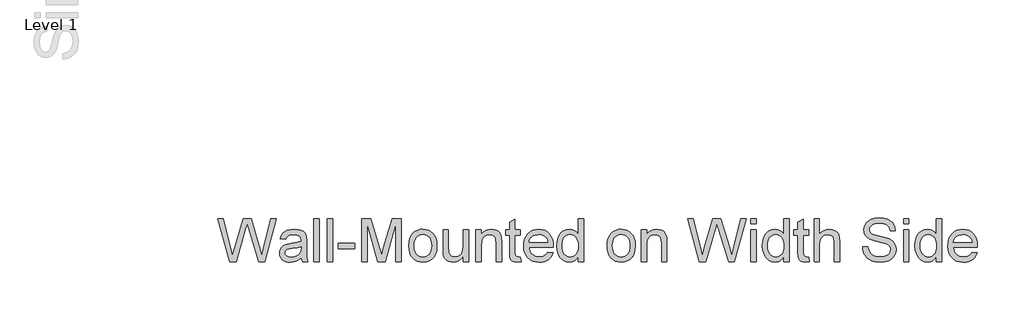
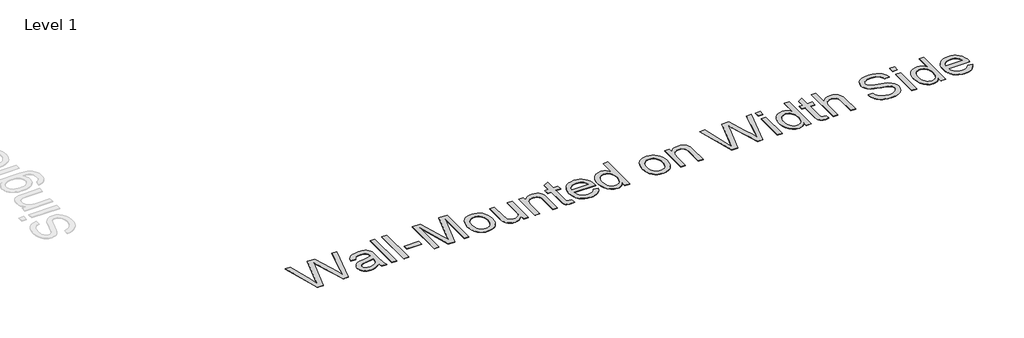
# One storey, part 64 of 80: 1 proxy.
"""IFC4 building model written with IfcOpenShell, lengths in millimetres."""

from ifc_helpers import new_model, si_unit, origin, origin_with_axes, place, context, project, spatial, polyline, outline, extrude, element, save

model = new_model("IFC4")

# Units and contexts
model_context = context("Model", 3, world=origin())
ifc_project = project(units=[si_unit("LENGTHUNIT", "METRE", prefix="MILLI")], contexts=[model_context])

# Site, building, storey
site = spatial("IfcSite", under=ifc_project)
building = spatial("IfcBuilding", under=site)
storey = spatial("IfcBuildingStorey", under=building, Name="Level 1", Elevation=0.0)

# Proxy
placement = place(None, origin())
element("IfcBuildingElementProxy", 1, Name="500mm Arial", ObjectType="500mm Arial", at=placement, inside=storey, context=model_context, shape_type="SweptSolid", body=[
    extrude(outline(polyline([(174085.7582965, 63218.3083036), (173948.783567, 63720.5898543), (174013.5307981, 63720.5898543), (174092.9933091, 63390.4770773), (174117.5187754, 63288.5737646), (174143.7610244, 63378.7048535), (174243.3344178, 63720.5898543), (174336.6538172, 63720.5898543), (174409.0039429, 63472.7600169), (174439.998001, 63380.7895181), (174462.8373416, 63288.5737646), (174486.6270439, 63387.5340213), (174566.8253189, 63720.5898543), (174631.57255, 63720.5898543), (174494.4751932, 63218.3083036), (174427.3980427, 63218.3083036), (174306.9780029, 63605.8106718), (174290.1780585, 63659.8893251), (174271.2934494, 63594.774212), (174161.5419875, 63218.3083036), (174085.7582965, 63218.3083036)])), origin_with_axes(), (0.0, 0.0, 1.0), 5.0),
    extrude(outline(polyline([(174921.9540716, 63265.3971989), (174891.9563605, 63239.6761161), (174861.0696013, 63222.8455148), (174828.5886869, 63213.5564945), (174793.8085099, 63210.4601543), (174765.8533104, 63212.3225569), (174741.3393403, 63217.9097647), (174720.2665998, 63227.2217777), (174702.6350888, 63240.2585959), (174688.7130545, 63256.1924849), (174678.7687443, 63274.19571), (174672.8021582, 63294.2682714), (174670.8132962, 63316.4101689), (174673.8176658, 63342.4378201), (174682.8307747, 63366.0742383), (174696.7336484, 63386.307748), (174714.4073126, 63402.1266738), (174735.1773169, 63414.0828387), (174758.369211, 63422.7280656), (174812.693119, 63432.1703701), (174876.8885271, 63442.103184), (174921.5861896, 63453.7527805), (174921.9540716, 63467.7322963), (174917.6314581, 63495.7526416), (174904.6636178, 63514.0854277), (174891.5884785, 63522.0255474), (174875.6622538, 63527.6970615), (174835.256548, 63532.2342728), (174797.8552118, 63529.2145747), (174771.7355902, 63520.1554806), (174753.9239703, 63503.4015214), (174741.4466393, 63477.2972282), (174678.6614454, 63485.1453774), (174689.5599495, 63519.4810303), (174705.8233994, 63546.4590433), (174728.9693082, 63567.0910918), (174760.5151893, 63582.3888515), (174799.0968136, 63591.8618128), (174843.3499519, 63595.0194666), (174885.7943371, 63592.2296948), (174919.4402113, 63583.8603794), (174944.8087405, 63571.2757495), (174962.421091, 63555.8400341), (174974.1013444, 63536.7561556), (174981.6735821, 63513.2270364), (174984.7392654, 63458.2899918), (174984.7392654, 63380.1763814), (174987.927576, 63271.0993699), (174992.6487283, 63244.1366853), (175000.4355639, 63218.3083036), (174937.65037, 63218.3083036), (174927.5949288, 63240.1359686), (174921.9540716, 63265.3971989)]), holes=[polyline([(174921.9540716, 63390.9675866), (174879.7702694, 63380.5136066), (174820.6638955, 63371.7150956), (174766.6465559, 63361.537027), (174752.590398, 63354.5779259), (174742.1824032, 63344.9823372), (174735.7444683, 63333.4860249), (174733.59849, 63320.8247529), (174738.273657, 63302.1547416), (174752.2991581, 63286.856982), (174775.3684249, 63276.6482566), (174807.1748891, 63273.2453482), (174840.8974053, 63277.0008102), (174870.6958469, 63288.2671963), (174894.8534312, 63304.8678713), (174911.6533757, 63324.6262002), (174919.1029861, 63344.9823372), (174921.5861896, 63373.1866235), (174921.9540716, 63390.9675866)])]), origin_with_axes(), (0.0, 0.0, 1.0), 5.0),
    extrude(outline(polyline([(175071.0689069, 63218.3083036), (175071.0689069, 63720.5898543), (175133.8541008, 63720.5898543), (175133.8541008, 63218.3083036), (175071.0689069, 63218.3083036)])), origin_with_axes(), (0.0, 0.0, 1.0), 5.0),
    extrude(outline(polyline([(175228.0318915, 63218.3083036), (175228.0318915, 63720.5898543), (175290.8170854, 63720.5898543), (175290.8170854, 63218.3083036), (175228.0318915, 63218.3083036)])), origin_with_axes(), (0.0, 0.0, 1.0), 5.0),
    extrude(outline(polyline([(175353.6022792, 63367.4231389), (175353.6022792, 63430.2083328), (175549.80601, 63430.2083328), (175549.80601, 63367.4231389), (175353.6022792, 63367.4231389)])), origin_with_axes(), (0.0, 0.0, 1.0), 5.0),
    extrude(outline(polyline([(175628.2875023, 63218.3083036), (175628.2875023, 63720.5898543), (175736.3221815, 63720.5898543), (175839.0838855, 63366.5647476), (175859.8079046, 63292.6204666), (175882.2487063, 63372.6961142), (175983.2936276, 63720.5898543), (176091.3283069, 63720.5898543), (176091.3283069, 63218.3083036), (176028.543113, 63218.3083036), (176028.543113, 63657.8046605), (175902.3595887, 63218.3083036), (175817.2562205, 63218.3083036), (175691.0726961, 63657.8046605), (175691.0726961, 63218.3083036), (175628.2875023, 63218.3083036)])), origin_with_axes(), (0.0, 0.0, 1.0), 5.0),
    extrude(outline(polyline([(176177.6579484, 63402.7398105), (176181.0531927, 63450.5108204), (176191.2389254, 63491.6752828), (176208.2151466, 63526.2331977), (176231.9818564, 63554.1845652), (176255.9095145, 63572.0498346), (176282.320376, 63584.8107413), (176311.2144411, 63592.4672853), (176342.5917096, 63595.0194666), (176377.2300987, 63591.9116302), (176408.5498856, 63582.5881209), (176436.5510704, 63567.0489387), (176461.233653, 63545.2940836), (176481.3790244, 63518.0593197), (176495.7685753, 63486.0804108), (176504.4023059, 63449.3573571), (176507.2802161, 63407.8901584), (176502.1911818, 63344.4611711), (176495.829889, 63318.4258557), (176486.924079, 63296.1766592), (176475.584883, 63276.9586571), (176461.9234318, 63260.0169248), (176445.9397255, 63245.3514623), (176427.6337641, 63232.9622697), (176386.9061616, 63216.0856832), (176342.5917096, 63210.4601543), (176307.4474827, 63213.5564945), (176275.8364559, 63222.8455148), (176247.758629, 63238.3272155), (176223.2140022, 63260.0015964), (176203.2832286, 63287.5007755), (176189.0469619, 63320.4568709), (176180.5052018, 63358.8698826), (176177.6579484, 63402.7398105)]), holes=[polyline([(176240.4431423, 63402.8624378), (176242.2595596, 63372.4087064), (176247.7088117, 63346.039998), (176256.7908984, 63323.7563125), (176269.5058199, 63305.5576501), (176284.9721921, 63291.421018), (176302.3086311, 63281.3234237), (176321.515137, 63275.264867), (176342.5917096, 63273.2453482), (176363.5609833, 63275.2763634), (176382.6908471, 63281.3694089), (176399.9813008, 63291.5244848), (176415.4323446, 63305.7415911), (176428.1472661, 63324.1203624), (176437.2293529, 63346.7604335), (176442.6786049, 63373.6618044), (176444.4950223, 63404.8244751), (176442.6671086, 63434.3125163), (176437.1833676, 63459.991446), (176428.0437993, 63481.8612642), (176415.2484036, 63499.9219709), (176399.7398783, 63514.058603), (176382.4609208, 63524.1561973), (176363.4115313, 63530.2147539), (176342.5917096, 63532.2342728), (176321.515137, 63530.2224181), (176302.3086311, 63524.1868541), (176284.9721921, 63514.1275808), (176269.5058199, 63500.0445982), (176256.7908984, 63481.8995852), (176247.7088117, 63459.6542208), (176242.2595596, 63433.308505), (176240.4431423, 63402.8624378)])]), origin_with_axes(), (0.0, 0.0, 1.0), 5.0),
    extrude(outline(polyline([(176813.3580361, 63218.3083036), (176813.3580361, 63281.7066341), (176790.6413229, 63250.5362992), (176764.1844761, 63228.2717743), (176733.9874956, 63214.9130593), (176700.0503816, 63210.4601543), (176669.4701907, 63213.5871513), (176641.0053213, 63222.9681422), (176617.1236485, 63237.0702853), (176600.2930472, 63254.3607391), (176588.9653474, 63275.3606697), (176581.5923791, 63300.5912432), (176577.9135592, 63358.9618531), (176577.9135592, 63587.1713174), (176640.698753, 63587.1713174), (176640.698753, 63388.51504), (176644.5002003, 63324.5035728), (176653.6512649, 63303.1510887), (176669.332235, 63286.9182957), (176690.5007781, 63276.663585), (176716.114562, 63273.2453482), (176743.1998739, 63276.7402271), (176768.5377463, 63287.224864), (176789.430378, 63303.7335685), (176803.1799676, 63325.3006505), (176810.813519, 63354.838509), (176813.3580361, 63395.2595432), (176813.3580361, 63587.1713174), (176876.1432299, 63587.1713174), (176876.1432299, 63218.3083036), (176813.3580361, 63218.3083036)])), origin_with_axes(), (0.0, 0.0, 1.0), 5.0),
    extrude(outline(polyline([(176962.4728715, 63218.3083036), (176962.4728715, 63587.1713174), (177025.2580653, 63587.1713174), (177025.2580653, 63535.6678381), (177047.0704019, 63561.6341756), (177073.2666657, 63580.1815595), (177103.8468565, 63591.3099898), (177138.8109745, 63595.0194666), (177169.7590473, 63592.0304254), (177198.1012894, 63583.0633018), (177221.7377076, 63569.2370701), (177238.5683088, 63551.6707049), (177249.9879791, 63530.4101912), (177257.3916043, 63505.5015145), (177260.7025422, 63444.8009853), (177260.7025422, 63218.3083036), (177197.9173484, 63218.3083036), (177197.9173484, 63436.3396994), (177196.1085952, 63468.8052854), (177190.6823358, 63491.8898806), (177180.6728799, 63508.429242), (177165.1145371, 63521.2591266), (177145.1722673, 63529.4904862), (177122.01103, 63532.2342728), (177102.9463121, 63530.6937669), (177085.2381589, 63526.0722494), (177068.8865707, 63518.3697201), (177053.8915473, 63507.5861791), (177041.3643989, 63492.4953531), (177032.4164358, 63471.8709687), (177027.0476579, 63445.713026), (177025.2580653, 63414.021525), (177025.2580653, 63218.3083036), (176962.4728715, 63218.3083036)])), origin_with_axes(), (0.0, 0.0, 1.0), 5.0),
    extrude(outline(polyline([(177480.4507207, 63270.6701742), (177488.2988699, 63216.4688936), (177441.3326019, 63210.4601543), (177411.1969351, 63213.0659851), (177388.7254765, 63220.8834775), (177372.8452371, 63232.9316129), (177362.4832276, 63248.2293725), (177356.7810566, 63274.5022783), (177354.880333, 63319.4758522), (177354.880333, 63524.3861236), (177307.7914376, 63524.3861236), (177307.7914376, 63587.1713174), (177354.880333, 63587.1713174), (177354.880333, 63676.8118969), (177417.6655268, 63713.7227237), (177417.6655268, 63587.1713174), (177480.4507207, 63587.1713174), (177480.4507207, 63524.3861236), (177417.6655268, 63524.3861236), (177417.6655268, 63321.3152622), (177420.9764648, 63288.9416466), (177431.7063563, 63277.4759911), (177453.1048257, 63273.2453482), (177480.4507207, 63270.6701742)])), origin_with_axes(), (0.0, 0.0, 1.0), 5.0),
    extrude(outline(polyline([(177801.4890751, 63328.1823928), (177863.0479957, 63320.3342436), (177853.6095232, 63295.6784857), (177840.867777, 63273.9504553), (177824.8227571, 63255.1501525), (177805.4744634, 63239.2775773), (177783.0221654, 63226.6699547), (177757.6651325, 63217.6645101), (177729.4033646, 63212.2612433), (177698.2368618, 63210.4601543), (177659.2796914, 63213.5679908), (177624.5684923, 63222.8915001), (177594.1032646, 63238.4306823), (177567.8840082, 63260.1855373), (177546.7997713, 63287.5505928), (177531.7396022, 63319.9203763), (177522.7035007, 63357.2948878), (177519.6914668, 63399.6741272), (177522.7341575, 63443.4904057), (177531.8622295, 63482.1103509), (177547.0756828, 63515.533963), (177568.3745175, 63543.761242), (177594.524796, 63566.1867153), (177624.2925808, 63582.2049105), (177657.6778719, 63591.8158276), (177694.6806692, 63595.0194666), (177730.4916822, 63591.8234918), (177762.8767941, 63582.2355673), (177791.8360049, 63566.2556931), (177817.3693146, 63543.8838693), (177838.2121289, 63515.717904), (177853.0998534, 63482.3556056), (177862.0324881, 63443.796974), (177865.010033, 63400.0420092), (177864.642151, 63383.1194374), (177582.4766607, 63383.1194374), (177586.1133275, 63358.0651407), (177593.3445079, 63336.1225125), (177604.1702021, 63317.2915529), (177618.5904099, 63301.5722618), (177635.8080537, 63289.1792371), (177655.0260558, 63280.3270766), (177676.2444163, 63275.0157803), (177699.4631351, 63273.2453482), (177732.879083, 63276.5256293), (177761.0220557, 63286.3664727), (177783.892053, 63303.3810149), (177801.4890751, 63328.1823928)]), holes=[polyline([(177582.4766607, 63445.9046312), (177802.2248391, 63445.9046312), (177793.7328964, 63479.0753245), (177777.0862361, 63502.8037132), (177759.9643949, 63515.679583), (177740.4819776, 63524.8766329), (177718.6389841, 63530.3948628), (177694.4354145, 63532.2342728), (177652.1136567, 63526.3634893), (177633.7003964, 63519.0250099), (177617.1188819, 63508.7511388), (177603.2045118, 63496.0170568), (177592.792685, 63481.2979449), (177585.8834012, 63464.593803), (177582.4766607, 63445.9046312)])]), origin_with_axes(), (0.0, 0.0, 1.0), 5.0),
    extrude(outline(polyline([(178155.3915545, 63218.3083036), (178155.3915545, 63277.5373048), (178136.6065801, 63248.1910515), (178113.8515459, 63227.2294419), (178087.1264518, 63214.6524762), (178056.4312978, 63210.4601543), (178015.841651, 63216.5302073), (177978.6855695, 63234.740366), (177947.2316589, 63263.8183721), (177923.7485249, 63302.4919668), (177909.1252156, 63349.1976518), (177904.2507791, 63402.3719285), (177908.7420051, 63454.8870833), (177922.2156832, 63502.3132038), (177932.3171097, 63523.4434259), (177944.6564849, 63541.9524888), (177959.233809, 63557.8403925), (177976.0490818, 63571.1071369), (178014.0175694, 63589.0413842), (178056.1860431, 63595.0194666), (178086.9041897, 63590.7428384), (178114.0661437, 63577.9129539), (178137.0894252, 63558.2465955), (178155.3915545, 63533.4605461), (178155.3915545, 63720.5898543), (178218.1767483, 63720.5898543), (178218.1767483, 63218.3083036), (178155.3915545, 63218.3083036)]), holes=[polyline([(177967.035973, 63402.6171831), (177968.8064051, 63372.1711159), (177974.1177014, 63345.8254001), (177982.9698619, 63323.5800357), (177995.3628866, 63305.4350228), (178010.1624727, 63291.3520401), (178026.2343174, 63281.2927668), (178043.5784206, 63275.2572028), (178062.1947824, 63273.2453482), (178080.8992826, 63275.1652323), (178098.139919, 63280.9248848), (178113.9166916, 63290.5243056), (178128.2296005, 63303.9634948), (178140.1129554, 63321.3497512), (178148.601066, 63342.7903737), (178153.6939324, 63368.2853624), (178155.3915545, 63397.8347172), (178153.6632755, 63430.2313254), (178148.4784387, 63458.0140803), (178139.8370439, 63481.1829817), (178127.7390912, 63499.7380299), (178113.1119498, 63513.9551361), (178096.8829888, 63524.1102121), (178079.0522084, 63530.2032576), (178059.6196084, 63532.2342728), (178040.6353646, 63530.2837318), (178023.2912614, 63524.4321088), (178007.5872987, 63514.6794038), (177993.5234766, 63501.0256169), (177981.9351938, 63483.1718438), (177973.6578489, 63460.8191805), (177968.6914419, 63433.9676269), (177967.035973, 63402.6171831)])]), origin_with_axes(), (0.0, 0.0, 1.0), 5.0),
    extrude(outline(polyline([(178492.8619714, 63402.7398105), (178496.2572156, 63450.5108204), (178506.4429484, 63491.6752828), (178523.4191696, 63526.2331977), (178547.1858794, 63554.1845652), (178571.1135375, 63572.0498346), (178597.524399, 63584.8107413), (178626.4184641, 63592.4672853), (178657.7957326, 63595.0194666), (178692.4341217, 63591.9116302), (178723.7539086, 63582.5881209), (178751.7550934, 63567.0489387), (178776.437676, 63545.2940836), (178796.5830474, 63518.0593197), (178810.9725983, 63486.0804108), (178819.6063289, 63449.3573571), (178822.4842391, 63407.8901584), (178817.3952048, 63344.4611711), (178811.033912, 63318.4258557), (178802.128102, 63296.1766592), (178790.7889059, 63276.9586571), (178777.1274548, 63260.0169248), (178761.1437485, 63245.3514623), (178742.8377871, 63232.9622697), (178702.1101846, 63216.0856832), (178657.7957326, 63210.4601543), (178622.6515057, 63213.5564945), (178591.0404789, 63222.8455148), (178562.962652, 63238.3272155), (178538.4180251, 63260.0015964), (178518.4872516, 63287.5007755), (178504.2509848, 63320.4568709), (178495.7092248, 63358.8698826), (178492.8619714, 63402.7398105)]), holes=[polyline([(178555.6471652, 63402.8624378), (178557.4635826, 63372.4087064), (178562.9128346, 63346.039998), (178571.9949214, 63323.7563125), (178584.7098429, 63305.5576501), (178600.1762151, 63291.421018), (178617.5126541, 63281.3234237), (178636.7191599, 63275.264867), (178657.7957326, 63273.2453482), (178678.7650063, 63275.2763634), (178697.89487, 63281.3694089), (178715.1853238, 63291.5244848), (178730.6363676, 63305.7415911), (178743.3512891, 63324.1203624), (178752.4333758, 63346.7604335), (178757.8826279, 63373.6618044), (178759.6990452, 63404.8244751), (178757.8711316, 63434.3125163), (178752.3873906, 63459.991446), (178743.2478223, 63481.8612642), (178730.4524266, 63499.9219709), (178714.9439013, 63514.058603), (178697.6649438, 63524.1561973), (178678.6155542, 63530.2147539), (178657.7957326, 63532.2342728), (178636.7191599, 63530.2224181), (178617.5126541, 63524.1868541), (178600.1762151, 63514.1275808), (178584.7098429, 63500.0445982), (178571.9949214, 63481.8995852), (178562.9128346, 63459.6542208), (178557.4635826, 63433.308505), (178555.6471652, 63402.8624378)])]), origin_with_axes(), (0.0, 0.0, 1.0), 5.0),
    extrude(outline(polyline([(178893.1175822, 63218.3083036), (178893.1175822, 63587.1713174), (178955.902776, 63587.1713174), (178955.902776, 63535.6678381), (178977.7151126, 63561.6341756), (179003.9113764, 63580.1815595), (179034.4915672, 63591.3099898), (179069.4556852, 63595.0194666), (179100.403758, 63592.0304254), (179128.7460001, 63583.0633018), (179152.3824183, 63569.2370701), (179169.2130195, 63551.6707049), (179180.6326898, 63530.4101912), (179188.036315, 63505.5015145), (179191.3472529, 63444.8009853), (179191.3472529, 63218.3083036), (179128.5620591, 63218.3083036), (179128.5620591, 63436.3396994), (179126.7533059, 63468.8052854), (179121.3270465, 63491.8898806), (179111.3175905, 63508.429242), (179095.7592478, 63521.2591266), (179075.816978, 63529.4904862), (179052.6557407, 63532.2342728), (179033.5910227, 63530.6937669), (179015.8828696, 63526.0722494), (178999.5312814, 63518.3697201), (178984.536258, 63507.5861791), (178972.0091096, 63492.4953531), (178963.0611465, 63471.8709687), (178957.6923686, 63445.713026), (178955.902776, 63414.021525), (178955.902776, 63218.3083036), (178893.1175822, 63218.3083036)])), origin_with_axes(), (0.0, 0.0, 1.0), 5.0),
    extrude(outline(polyline([(179571.6146086, 63218.3083036), (179434.6398791, 63720.5898543), (179499.3871102, 63720.5898543), (179578.8496212, 63390.4770773), (179603.3750875, 63288.5737646), (179629.6173365, 63378.7048535), (179729.1907299, 63720.5898543), (179822.5101293, 63720.5898543), (179894.860255, 63472.7600169), (179925.8543131, 63380.7895181), (179948.6936536, 63288.5737646), (179972.483356, 63387.5340213), (180052.681631, 63720.5898543), (180117.4288621, 63720.5898543), (179980.3315052, 63218.3083036), (179913.2543548, 63218.3083036), (179792.834315, 63605.8106718), (179776.0343706, 63659.8893251), (179757.1497615, 63594.774212), (179647.3982996, 63218.3083036), (179571.6146086, 63218.3083036)])), origin_with_axes(), (0.0, 0.0, 1.0), 5.0),
    extrude(outline(polyline([(180172.3659067, 63657.8046605), (180172.3659067, 63720.5898543), (180235.1511006, 63720.5898543), (180235.1511006, 63657.8046605), (180172.3659067, 63657.8046605)])), origin_with_axes(), (0.0, 0.0, 1.0), 5.0),
    extrude(outline(polyline([(180172.3659067, 63218.3083036), (180172.3659067, 63587.1713174), (180235.1511006, 63587.1713174), (180235.1511006, 63218.3083036), (180172.3659067, 63218.3083036)])), origin_with_axes(), (0.0, 0.0, 1.0), 5.0),
    extrude(outline(polyline([(180556.925219, 63218.3083036), (180556.925219, 63277.5373048), (180538.1402446, 63248.1910515), (180515.3852104, 63227.2294419), (180488.6601163, 63214.6524762), (180457.9649623, 63210.4601543), (180417.3753155, 63216.5302073), (180380.219234, 63234.740366), (180348.7653234, 63263.8183721), (180325.2821894, 63302.4919668), (180310.6588801, 63349.1976518), (180305.7844436, 63402.3719285), (180310.2756697, 63454.8870833), (180323.7493477, 63502.3132038), (180333.8507742, 63523.4434259), (180346.1901494, 63541.9524888), (180360.7674735, 63557.8403925), (180377.5827464, 63571.1071369), (180415.5512339, 63589.0413842), (180457.7197076, 63595.0194666), (180488.4378542, 63590.7428384), (180515.5998082, 63577.9129539), (180538.6230897, 63558.2465955), (180556.925219, 63533.4605461), (180556.925219, 63720.5898543), (180619.7104128, 63720.5898543), (180619.7104128, 63218.3083036), (180556.925219, 63218.3083036)]), holes=[polyline([(180368.5696375, 63402.6171831), (180370.3400696, 63372.1711159), (180375.6513659, 63345.8254001), (180384.5035264, 63323.5800357), (180396.8965511, 63305.4350228), (180411.6961372, 63291.3520401), (180427.7679819, 63281.2927668), (180445.1120851, 63275.2572028), (180463.7284469, 63273.2453482), (180482.4329471, 63275.1652323), (180499.6735835, 63280.9248848), (180515.4503562, 63290.5243056), (180529.763265, 63303.9634948), (180541.6466199, 63321.3497512), (180550.1347305, 63342.7903737), (180555.2275969, 63368.2853624), (180556.925219, 63397.8347172), (180555.19694, 63430.2313254), (180550.0121032, 63458.0140803), (180541.3707084, 63481.1829817), (180529.2727557, 63499.7380299), (180514.6456143, 63513.9551361), (180498.4166534, 63524.1102121), (180480.5858729, 63530.2032576), (180461.1532729, 63532.2342728), (180442.1690291, 63530.2837318), (180424.8249259, 63524.4321088), (180409.1209632, 63514.6794038), (180395.0571411, 63501.0256169), (180383.4688583, 63483.1718438), (180375.1915134, 63460.8191805), (180370.2251065, 63433.9676269), (180368.5696375, 63402.6171831)])]), origin_with_axes(), (0.0, 0.0, 1.0), 5.0),
    extrude(outline(polyline([(180847.3067405, 63270.6701742), (180855.1548898, 63216.4688936), (180808.1886217, 63210.4601543), (180778.0529549, 63213.0659851), (180755.5814964, 63220.8834775), (180739.7012569, 63232.9316129), (180729.3392474, 63248.2293725), (180723.6370765, 63274.5022783), (180721.7363528, 63319.4758522), (180721.7363528, 63524.3861236), (180674.6474575, 63524.3861236), (180674.6474575, 63587.1713174), (180721.7363528, 63587.1713174), (180721.7363528, 63676.8118969), (180784.5215467, 63713.7227237), (180784.5215467, 63587.1713174), (180847.3067405, 63587.1713174), (180847.3067405, 63524.3861236), (180784.5215467, 63524.3861236), (180784.5215467, 63321.3152622), (180787.8324846, 63288.9416466), (180798.5623762, 63277.4759911), (180819.9608456, 63273.2453482), (180847.3067405, 63270.6701742)])), origin_with_axes(), (0.0, 0.0, 1.0), 5.0),
    extrude(outline(polyline([(180910.0919344, 63218.3083036), (180910.0919344, 63720.5898543), (180972.8771282, 63720.5898543), (180972.8771282, 63535.9130927), (180995.9387308, 63561.7721313), (181021.8360904, 63580.2428732), (181050.5692071, 63591.3253183), (181082.1380808, 63595.0194666), (181120.0605831, 63590.9880931), (181152.6487965, 63578.8939725), (181178.3085657, 63559.6874667), (181195.4457353, 63534.3189374), (181205.1026377, 63499.4621184), (181208.3216051, 63451.7907432), (181208.3216051, 63218.3083036), (181145.5364113, 63218.3083036), (181145.5364113, 63445.2914946), (181140.5393475, 63484.5935544), (181134.2930178, 63499.6000741), (181125.5481562, 63511.5102537), (181114.5116964, 63520.5770121), (181101.3905719, 63527.053268), (181068.894329, 63532.2342728), (181042.3608401, 63528.7393938), (181017.4521633, 63518.254757), (180996.8201147, 63501.7920377), (180983.1165104, 63480.3629115), (180975.4369738, 63451.8827137), (180972.8771282, 63414.2667797), (180972.8771282, 63218.3083036), (180910.0919344, 63218.3083036)])), origin_with_axes(), (0.0, 0.0, 1.0), 5.0),
    extrude(outline(polyline([(181475.158679, 63390.9675866), (181537.9438728, 63390.9675866), (181545.1482285, 63356.126096), (181558.1773825, 63328.1210791), (181578.5028628, 63305.8948752), (181607.5961972, 63288.3898236), (181643.1581234, 63277.031467), (181682.8893789, 63273.2453482), (181717.8688253, 63276.1117621), (181748.4950014, 63284.7110037), (181773.3117076, 63298.3226375), (181790.8627445, 63316.2262279), (181801.3013961, 63336.7816344), (181804.7809466, 63358.3487164), (181802.1751158, 63379.3639754), (181794.3576234, 63397.5281489), (181778.477384, 63413.0251779), (181751.683312, 63426.0390035), (181660.2646362, 63450.0126469), (181600.2538857, 63465.8775579), (181561.8562025, 63480.9760481), (181530.6015613, 63502.098606), (181508.4519995, 63527.6970615), (181495.254233, 63557.2195916), (181490.8549774, 63590.1143734), (181496.2965653, 63626.8872445), (181512.6213288, 63661.1769121), (181524.7576025, 63676.704598), (181539.4000724, 63690.2395897), (181576.2036003, 63711.3314908), (181620.3800966, 63724.1613753), (181669.2777451, 63728.4380035), (181722.2527524, 63723.9621059), (181768.6058838, 63710.5344131), (181806.6816703, 63688.4308366), (181821.9947583, 63674.2290587), (181834.8246429, 63657.9272878), (181852.6362629, 63620.9244905), (181859.7179913, 63579.3231682), (181796.9327974, 63579.3231682), (181792.7328113, 63599.3574085), (181785.4058282, 63616.785818), (181774.9518482, 63631.6083967), (181761.3708712, 63643.8251447), (181744.4099784, 63653.3747481), (181723.8162509, 63660.1958934), (181671.7302917, 63665.6528097), (181618.4180593, 63660.2572071), (181598.0389296, 63653.5127039), (181581.8444576, 63644.0703993), (181569.5050823, 63632.7197069), (181560.6912428, 63620.2500401), (181555.4029392, 63606.6613989), (181553.6401713, 63591.9537833), (181558.637235, 63567.8268558), (181573.6284263, 63548.4210806), (181587.3933443, 63539.7911821), (181609.0677252, 63531.0693131), (181676.1448757, 63513.3496637), (181745.3680044, 63496.5190624), (181787.2452382, 63481.8344394), (181823.0370907, 63459.0564126), (181848.0070811, 63430.9440968), (181862.6763756, 63397.8040604), (181867.5661405, 63359.9428717), (181861.9406116, 63321.2386201), (181845.0640251, 63284.833631), (181817.6261596, 63253.5023478), (181780.316794, 63230.0192137), (181735.450519, 63215.3499192), (181685.3419255, 63210.4601543), (181623.8289903, 63215.7331296), (181597.1537135, 63222.3243487), (181573.1992307, 63231.5520554), (181551.8199218, 63243.4315782), (181532.870167, 63257.9782454), (181516.3499661, 63275.1920571), (181502.2593193, 63295.0730132), (181490.9086269, 63316.9773204), (181482.6082894, 63340.261185), (181477.3583067, 63364.9246071), (181475.158679, 63390.9675866)])), origin_with_axes(), (0.0, 0.0, 1.0), 5.0),
    extrude(outline(polyline([(181953.895782, 63657.8046605), (181953.895782, 63720.5898543), (182016.6809759, 63720.5898543), (182016.6809759, 63657.8046605), (181953.895782, 63657.8046605)])), origin_with_axes(), (0.0, 0.0, 1.0), 5.0),
    extrude(outline(polyline([(181953.895782, 63218.3083036), (181953.895782, 63587.1713174), (182016.6809759, 63587.1713174), (182016.6809759, 63218.3083036), (181953.895782, 63218.3083036)])), origin_with_axes(), (0.0, 0.0, 1.0), 5.0),
    extrude(outline(polyline([(182338.4550943, 63218.3083036), (182338.4550943, 63277.5373048), (182319.6701199, 63248.1910515), (182296.9150857, 63227.2294419), (182270.1899916, 63214.6524762), (182239.4948376, 63210.4601543), (182198.9051908, 63216.5302073), (182161.7491093, 63234.740366), (182130.2951987, 63263.8183721), (182106.8120647, 63302.4919668), (182092.1887554, 63349.1976518), (182087.3143189, 63402.3719285), (182091.805545, 63454.8870833), (182105.279223, 63502.3132038), (182115.3806495, 63523.4434259), (182127.7200247, 63541.9524888), (182142.2973488, 63557.8403925), (182159.1126217, 63571.1071369), (182197.0811093, 63589.0413842), (182239.2495829, 63595.0194666), (182269.9677295, 63590.7428384), (182297.1296835, 63577.9129539), (182320.1529651, 63558.2465955), (182338.4550943, 63533.4605461), (182338.4550943, 63720.5898543), (182401.2402882, 63720.5898543), (182401.2402882, 63218.3083036), (182338.4550943, 63218.3083036)]), holes=[polyline([(182150.0995128, 63402.6171831), (182151.8699449, 63372.1711159), (182157.1812412, 63345.8254001), (182166.0334017, 63323.5800357), (182178.4264264, 63305.4350228), (182193.2260125, 63291.3520401), (182209.2978572, 63281.2927668), (182226.6419604, 63275.2572028), (182245.2583222, 63273.2453482), (182263.9628224, 63275.1652323), (182281.2034588, 63280.9248848), (182296.9802315, 63290.5243056), (182311.2931403, 63303.9634948), (182323.1764952, 63321.3497512), (182331.6646058, 63342.7903737), (182336.7574722, 63368.2853624), (182338.4550943, 63397.8347172), (182336.7268154, 63430.2313254), (182331.5419785, 63458.0140803), (182322.9005837, 63481.1829817), (182310.802631, 63499.7380299), (182296.1754896, 63513.9551361), (182279.9465287, 63524.1102121), (182262.1157482, 63530.2032576), (182242.6831482, 63532.2342728), (182223.6989044, 63530.2837318), (182206.3548012, 63524.4321088), (182190.6508385, 63514.6794038), (182176.5870164, 63501.0256169), (182164.9987336, 63483.1718438), (182156.7213887, 63460.8191805), (182151.7549818, 63433.9676269), (182150.0995128, 63402.6171831)])]), origin_with_axes(), (0.0, 0.0, 1.0), 5.0),
    extrude(outline(polyline([(182753.6712395, 63328.1823928), (182815.2301601, 63320.3342436), (182805.7916876, 63295.6784857), (182793.0499414, 63273.9504553), (182777.0049215, 63255.1501525), (182757.6566278, 63239.2775773), (182735.2043298, 63226.6699547), (182709.8472969, 63217.6645101), (182681.585529, 63212.2612433), (182650.4190262, 63210.4601543), (182611.4618558, 63213.5679908), (182576.7506567, 63222.8915001), (182546.285429, 63238.4306823), (182520.0661726, 63260.1855373), (182498.9819358, 63287.5505928), (182483.9217666, 63319.9203763), (182474.8856651, 63357.2948878), (182471.8736312, 63399.6741272), (182474.9163219, 63443.4904057), (182484.0443939, 63482.1103509), (182499.2578472, 63515.533963), (182520.5566819, 63543.761242), (182546.7069604, 63566.1867153), (182576.4747452, 63582.2049105), (182609.8600363, 63591.8158276), (182646.8628336, 63595.0194666), (182682.6738466, 63591.8234918), (182715.0589585, 63582.2355673), (182744.0181693, 63566.2556931), (182769.551479, 63543.8838693), (182790.3942933, 63515.717904), (182805.2820178, 63482.3556056), (182814.2146525, 63443.796974), (182817.1921974, 63400.0420092), (182816.8243154, 63383.1194374), (182534.6588251, 63383.1194374), (182538.2954919, 63358.0651407), (182545.5266724, 63336.1225125), (182556.3523665, 63317.2915529), (182570.7725743, 63301.5722618), (182587.9902181, 63289.1792371), (182607.2082202, 63280.3270766), (182628.4265807, 63275.0157803), (182651.6452995, 63273.2453482), (182685.0612474, 63276.5256293), (182713.2042201, 63286.3664727), (182736.0742174, 63303.3810149), (182753.6712395, 63328.1823928)]), holes=[polyline([(182534.6588251, 63445.9046312), (182754.4070035, 63445.9046312), (182745.9150608, 63479.0753245), (182729.2684005, 63502.8037132), (182712.1465593, 63515.679583), (182692.664142, 63524.8766329), (182670.8211485, 63530.3948628), (182646.6175789, 63532.2342728), (182604.2958211, 63526.3634893), (182585.8825608, 63519.0250099), (182569.3010463, 63508.7511388), (182555.3866762, 63496.0170568), (182544.9748494, 63481.2979449), (182538.0655656, 63464.593803), (182534.6588251, 63445.9046312)])]), origin_with_axes(), (0.0, 0.0, 1.0), 5.0),
])

save(model, "model.ifc")
